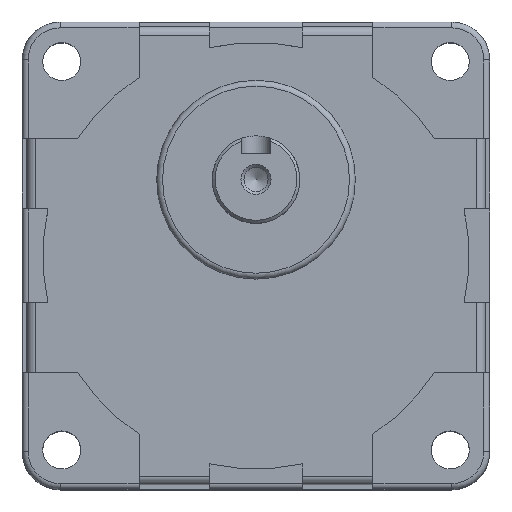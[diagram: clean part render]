
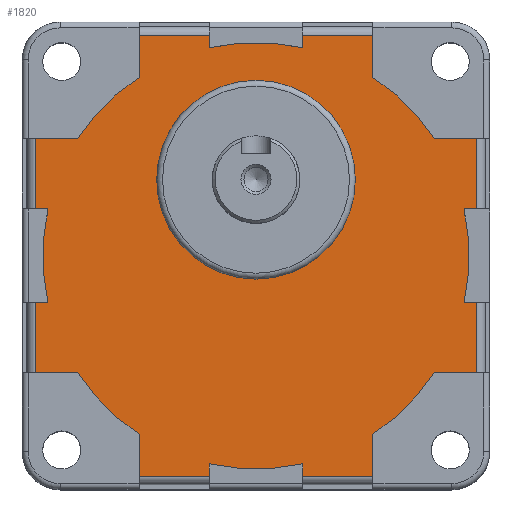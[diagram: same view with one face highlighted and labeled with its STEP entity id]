
A CAD part, top view. The second image highlights one B-rep face of the part: STEP entity #1820.
In plain terms, the highlighted planar face has unit normal (0, 0, 1).
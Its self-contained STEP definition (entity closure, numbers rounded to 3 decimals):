
#36=LINE('',#2787,#208);
#40=LINE('',#2799,#212);
#42=LINE('',#2805,#214);
#43=LINE('',#2809,#215);
#44=LINE('',#2811,#216);
#45=LINE('',#2813,#217);
#46=LINE('',#2817,#218);
#47=LINE('',#2819,#219);
#48=LINE('',#2821,#220);
#49=LINE('',#2825,#221);
#50=LINE('',#2827,#222);
#51=LINE('',#2829,#223);
#52=LINE('',#2833,#224);
#53=LINE('',#2835,#225);
#54=LINE('',#2837,#226);
#55=LINE('',#2841,#227);
#56=LINE('',#2843,#228);
#57=LINE('',#2845,#229);
#58=LINE('',#2849,#230);
#59=LINE('',#2851,#231);
#60=LINE('',#2853,#232);
#61=LINE('',#2856,#233);
#62=LINE('',#2858,#234);
#63=LINE('',#2861,#235);
#208=VECTOR('',#2207,12.);
#212=VECTOR('',#2217,12.);
#214=VECTOR('',#2223,7.167);
#215=VECTOR('',#2226,7.167);
#216=VECTOR('',#2227,12.);
#217=VECTOR('',#2228,2.088);
#218=VECTOR('',#2231,2.088);
#219=VECTOR('',#2232,12.);
#220=VECTOR('',#2233,7.167);
#221=VECTOR('',#2236,7.167);
#222=VECTOR('',#2237,12.);
#223=VECTOR('',#2238,2.088);
#224=VECTOR('',#2241,2.088);
#225=VECTOR('',#2242,12.);
#226=VECTOR('',#2243,7.167);
#227=VECTOR('',#2246,7.167);
#228=VECTOR('',#2247,12.);
#229=VECTOR('',#2248,2.088);
#230=VECTOR('',#2251,2.088);
#231=VECTOR('',#2252,12.);
#232=VECTOR('',#2253,7.167);
#233=VECTOR('',#2256,7.167);
#234=VECTOR('',#2257,2.088);
#235=VECTOR('',#2260,2.088);
#377=PLANE('',#1954);
#479=FACE_BOUND('',#633,.T.);
#511=FACE_OUTER_BOUND('',#632,.T.);
#632=EDGE_LOOP('',(#1341,#1342,#1343,#1344,#1345,#1346,#1347,#1348,#1349,
#1350,#1351,#1352,#1353,#1354,#1355,#1356,#1357,#1358,#1359,#1360,#1361,
#1362,#1363,#1364,#1365,#1366,#1367,#1368,#1369,#1370,#1371,#1372));
#633=EDGE_LOOP('',(#1373));
#745=CIRCLE('',#1945,17.);
#750=CIRCLE('',#1955,36.5);
#751=CIRCLE('',#1956,36.5);
#752=CIRCLE('',#1957,36.5);
#753=CIRCLE('',#1958,36.5);
#754=CIRCLE('',#1959,36.5);
#755=CIRCLE('',#1960,36.5);
#756=CIRCLE('',#1961,36.5);
#757=CIRCLE('',#1962,36.5);
#847=VERTEX_POINT('',#2776);
#848=VERTEX_POINT('',#2780);
#851=VERTEX_POINT('',#2785);
#855=VERTEX_POINT('',#2796);
#856=VERTEX_POINT('',#2798);
#858=VERTEX_POINT('',#2804);
#859=VERTEX_POINT('',#2806);
#860=VERTEX_POINT('',#2808);
#861=VERTEX_POINT('',#2810);
#862=VERTEX_POINT('',#2812);
#863=VERTEX_POINT('',#2814);
#864=VERTEX_POINT('',#2816);
#865=VERTEX_POINT('',#2818);
#866=VERTEX_POINT('',#2820);
#867=VERTEX_POINT('',#2822);
#868=VERTEX_POINT('',#2824);
#869=VERTEX_POINT('',#2826);
#870=VERTEX_POINT('',#2828);
#871=VERTEX_POINT('',#2830);
#872=VERTEX_POINT('',#2832);
#873=VERTEX_POINT('',#2834);
#874=VERTEX_POINT('',#2836);
#875=VERTEX_POINT('',#2838);
#876=VERTEX_POINT('',#2840);
#877=VERTEX_POINT('',#2842);
#878=VERTEX_POINT('',#2844);
#879=VERTEX_POINT('',#2846);
#880=VERTEX_POINT('',#2848);
#881=VERTEX_POINT('',#2850);
#882=VERTEX_POINT('',#2852);
#883=VERTEX_POINT('',#2854);
#884=VERTEX_POINT('',#2857);
#885=VERTEX_POINT('',#2859);
#1034=EDGE_CURVE('',#847,#847,#745,.T.);
#1038=EDGE_CURVE('',#851,#848,#36,.T.);
#1043=EDGE_CURVE('',#855,#856,#40,.T.);
#1046=EDGE_CURVE('',#851,#858,#42,.T.);
#1047=EDGE_CURVE('',#859,#858,#750,.T.);
#1048=EDGE_CURVE('',#860,#859,#43,.T.);
#1049=EDGE_CURVE('',#861,#860,#44,.T.);
#1050=EDGE_CURVE('',#862,#861,#45,.T.);
#1051=EDGE_CURVE('',#863,#862,#751,.T.);
#1052=EDGE_CURVE('',#863,#864,#46,.T.);
#1053=EDGE_CURVE('',#865,#864,#47,.T.);
#1054=EDGE_CURVE('',#865,#866,#48,.T.);
#1055=EDGE_CURVE('',#867,#866,#752,.T.);
#1056=EDGE_CURVE('',#868,#867,#49,.T.);
#1057=EDGE_CURVE('',#869,#868,#50,.T.);
#1058=EDGE_CURVE('',#870,#869,#51,.T.);
#1059=EDGE_CURVE('',#871,#870,#753,.T.);
#1060=EDGE_CURVE('',#871,#872,#52,.T.);
#1061=EDGE_CURVE('',#873,#872,#53,.T.);
#1062=EDGE_CURVE('',#873,#874,#54,.T.);
#1063=EDGE_CURVE('',#875,#874,#754,.T.);
#1064=EDGE_CURVE('',#876,#875,#55,.T.);
#1065=EDGE_CURVE('',#877,#876,#56,.T.);
#1066=EDGE_CURVE('',#878,#877,#57,.T.);
#1067=EDGE_CURVE('',#879,#878,#755,.T.);
#1068=EDGE_CURVE('',#879,#880,#58,.T.);
#1069=EDGE_CURVE('',#881,#880,#59,.T.);
#1070=EDGE_CURVE('',#881,#882,#60,.T.);
#1071=EDGE_CURVE('',#883,#882,#756,.T.);
#1072=EDGE_CURVE('',#856,#883,#61,.T.);
#1073=EDGE_CURVE('',#884,#855,#62,.T.);
#1074=EDGE_CURVE('',#885,#884,#757,.T.);
#1075=EDGE_CURVE('',#885,#848,#63,.T.);
#1341=ORIENTED_EDGE('',*,*,#1038,.F.);
#1342=ORIENTED_EDGE('',*,*,#1046,.T.);
#1343=ORIENTED_EDGE('',*,*,#1047,.F.);
#1344=ORIENTED_EDGE('',*,*,#1048,.F.);
#1345=ORIENTED_EDGE('',*,*,#1049,.F.);
#1346=ORIENTED_EDGE('',*,*,#1050,.F.);
#1347=ORIENTED_EDGE('',*,*,#1051,.F.);
#1348=ORIENTED_EDGE('',*,*,#1052,.T.);
#1349=ORIENTED_EDGE('',*,*,#1053,.F.);
#1350=ORIENTED_EDGE('',*,*,#1054,.T.);
#1351=ORIENTED_EDGE('',*,*,#1055,.F.);
#1352=ORIENTED_EDGE('',*,*,#1056,.F.);
#1353=ORIENTED_EDGE('',*,*,#1057,.F.);
#1354=ORIENTED_EDGE('',*,*,#1058,.F.);
#1355=ORIENTED_EDGE('',*,*,#1059,.F.);
#1356=ORIENTED_EDGE('',*,*,#1060,.T.);
#1357=ORIENTED_EDGE('',*,*,#1061,.F.);
#1358=ORIENTED_EDGE('',*,*,#1062,.T.);
#1359=ORIENTED_EDGE('',*,*,#1063,.F.);
#1360=ORIENTED_EDGE('',*,*,#1064,.F.);
#1361=ORIENTED_EDGE('',*,*,#1065,.F.);
#1362=ORIENTED_EDGE('',*,*,#1066,.F.);
#1363=ORIENTED_EDGE('',*,*,#1067,.F.);
#1364=ORIENTED_EDGE('',*,*,#1068,.T.);
#1365=ORIENTED_EDGE('',*,*,#1069,.F.);
#1366=ORIENTED_EDGE('',*,*,#1070,.T.);
#1367=ORIENTED_EDGE('',*,*,#1071,.F.);
#1368=ORIENTED_EDGE('',*,*,#1072,.F.);
#1369=ORIENTED_EDGE('',*,*,#1043,.F.);
#1370=ORIENTED_EDGE('',*,*,#1073,.F.);
#1371=ORIENTED_EDGE('',*,*,#1074,.F.);
#1372=ORIENTED_EDGE('',*,*,#1075,.T.);
#1373=ORIENTED_EDGE('',*,*,#1034,.F.);
#1820=ADVANCED_FACE('',(#511,#479),#377,.T.);
#1945=AXIS2_PLACEMENT_3D('',#2777,#2196,#2197);
#1954=AXIS2_PLACEMENT_3D('',#2803,#2221,#2222);
#1955=AXIS2_PLACEMENT_3D('',#2807,#2224,#2225);
#1956=AXIS2_PLACEMENT_3D('',#2815,#2229,#2230);
#1957=AXIS2_PLACEMENT_3D('',#2823,#2234,#2235);
#1958=AXIS2_PLACEMENT_3D('',#2831,#2239,#2240);
#1959=AXIS2_PLACEMENT_3D('',#2839,#2244,#2245);
#1960=AXIS2_PLACEMENT_3D('',#2847,#2249,#2250);
#1961=AXIS2_PLACEMENT_3D('',#2855,#2254,#2255);
#1962=AXIS2_PLACEMENT_3D('',#2860,#2258,#2259);
#2196=DIRECTION('center_axis',(0.,0.,1.));
#2197=DIRECTION('ref_axis',(-1.,0.,0.));
#2207=DIRECTION('',(0.,-1.,0.));
#2217=DIRECTION('',(0.,-1.,0.));
#2221=DIRECTION('center_axis',(0.,0.,1.));
#2222=DIRECTION('ref_axis',(1.,0.,0.));
#2223=DIRECTION('',(-1.,0.,0.));
#2224=DIRECTION('center_axis',(0.,0.,-1.));
#2225=DIRECTION('ref_axis',(-1.,0.,0.));
#2226=DIRECTION('',(0.,-1.,0.));
#2227=DIRECTION('',(1.,0.,0.));
#2228=DIRECTION('',(0.,1.,0.));
#2229=DIRECTION('center_axis',(0.,0.,-1.));
#2230=DIRECTION('ref_axis',(-1.,0.,0.));
#2231=DIRECTION('',(0.,1.,0.));
#2232=DIRECTION('',(1.,0.,0.));
#2233=DIRECTION('',(0.,-1.,0.));
#2234=DIRECTION('center_axis',(0.,0.,-1.));
#2235=DIRECTION('ref_axis',(-1.,0.,0.));
#2236=DIRECTION('',(1.,0.,0.));
#2237=DIRECTION('',(0.,1.,0.));
#2238=DIRECTION('',(-1.,0.,0.));
#2239=DIRECTION('center_axis',(0.,0.,-1.));
#2240=DIRECTION('ref_axis',(-1.,0.,0.));
#2241=DIRECTION('',(-1.,0.,0.));
#2242=DIRECTION('',(0.,1.,0.));
#2243=DIRECTION('',(1.,0.,0.));
#2244=DIRECTION('center_axis',(0.,0.,-1.));
#2245=DIRECTION('ref_axis',(-1.,0.,0.));
#2246=DIRECTION('',(0.,1.,0.));
#2247=DIRECTION('',(-1.,0.,0.));
#2248=DIRECTION('',(0.,-1.,0.));
#2249=DIRECTION('center_axis',(0.,0.,-1.));
#2250=DIRECTION('ref_axis',(-1.,0.,0.));
#2251=DIRECTION('',(0.,-1.,0.));
#2252=DIRECTION('',(-1.,0.,0.));
#2253=DIRECTION('',(0.,1.,0.));
#2254=DIRECTION('center_axis',(0.,0.,-1.));
#2255=DIRECTION('ref_axis',(-1.,0.,0.));
#2256=DIRECTION('',(-1.,0.,0.));
#2257=DIRECTION('',(1.,0.,0.));
#2258=DIRECTION('center_axis',(0.,0.,-1.));
#2259=DIRECTION('ref_axis',(-1.,0.,0.));
#2260=DIRECTION('',(1.,0.,0.));
#2776=CARTESIAN_POINT('',(17.,13.,50.2));
#2777=CARTESIAN_POINT('Origin',(0.,13.,50.2));
#2780=CARTESIAN_POINT('',(37.7,8.,50.2));
#2785=CARTESIAN_POINT('',(37.7,20.,50.2));
#2787=CARTESIAN_POINT('',(37.7,10.,50.2));
#2796=CARTESIAN_POINT('',(37.7,-8.,50.2));
#2798=CARTESIAN_POINT('',(37.7,-20.,50.2));
#2799=CARTESIAN_POINT('',(37.7,-10.,50.2));
#2803=CARTESIAN_POINT('Origin',(0.,0.,50.2));
#2804=CARTESIAN_POINT('',(30.533,20.,50.2));
#2805=CARTESIAN_POINT('',(30.533,20.,50.2));
#2806=CARTESIAN_POINT('',(20.,30.533,50.2));
#2807=CARTESIAN_POINT('Origin',(0.,0.,50.2));
#2808=CARTESIAN_POINT('',(20.,37.7,50.2));
#2809=CARTESIAN_POINT('',(20.,30.533,50.2));
#2810=CARTESIAN_POINT('',(8.,37.7,50.2));
#2811=CARTESIAN_POINT('',(10.,37.7,50.2));
#2812=CARTESIAN_POINT('',(8.,35.612,50.2));
#2813=CARTESIAN_POINT('',(8.,40.,50.2));
#2814=CARTESIAN_POINT('',(-8.,35.612,50.2));
#2815=CARTESIAN_POINT('Origin',(0.,0.,50.2));
#2816=CARTESIAN_POINT('',(-8.,37.7,50.2));
#2817=CARTESIAN_POINT('',(-8.,40.,50.2));
#2818=CARTESIAN_POINT('',(-20.,37.7,50.2));
#2819=CARTESIAN_POINT('',(-10.,37.7,50.2));
#2820=CARTESIAN_POINT('',(-20.,30.533,50.2));
#2821=CARTESIAN_POINT('',(-20.,30.533,50.2));
#2822=CARTESIAN_POINT('',(-30.533,20.,50.2));
#2823=CARTESIAN_POINT('Origin',(0.,0.,50.2));
#2824=CARTESIAN_POINT('',(-37.7,20.,50.2));
#2825=CARTESIAN_POINT('',(-30.533,20.,50.2));
#2826=CARTESIAN_POINT('',(-37.7,8.,50.2));
#2827=CARTESIAN_POINT('',(-37.7,10.,50.2));
#2828=CARTESIAN_POINT('',(-35.612,8.,50.2));
#2829=CARTESIAN_POINT('',(-40.,8.,50.2));
#2830=CARTESIAN_POINT('',(-35.612,-8.,50.2));
#2831=CARTESIAN_POINT('Origin',(0.,0.,50.2));
#2832=CARTESIAN_POINT('',(-37.7,-8.,50.2));
#2833=CARTESIAN_POINT('',(-40.,-8.,50.2));
#2834=CARTESIAN_POINT('',(-37.7,-20.,50.2));
#2835=CARTESIAN_POINT('',(-37.7,-10.,50.2));
#2836=CARTESIAN_POINT('',(-30.533,-20.,50.2));
#2837=CARTESIAN_POINT('',(-30.533,-20.,50.2));
#2838=CARTESIAN_POINT('',(-20.,-30.533,50.2));
#2839=CARTESIAN_POINT('Origin',(0.,0.,50.2));
#2840=CARTESIAN_POINT('',(-20.,-37.7,50.2));
#2841=CARTESIAN_POINT('',(-20.,-30.533,50.2));
#2842=CARTESIAN_POINT('',(-8.,-37.7,50.2));
#2843=CARTESIAN_POINT('',(-10.,-37.7,50.2));
#2844=CARTESIAN_POINT('',(-8.,-35.612,50.2));
#2845=CARTESIAN_POINT('',(-8.,-40.,50.2));
#2846=CARTESIAN_POINT('',(8.,-35.612,50.2));
#2847=CARTESIAN_POINT('Origin',(0.,0.,50.2));
#2848=CARTESIAN_POINT('',(8.,-37.7,50.2));
#2849=CARTESIAN_POINT('',(8.,-40.,50.2));
#2850=CARTESIAN_POINT('',(20.,-37.7,50.2));
#2851=CARTESIAN_POINT('',(10.,-37.7,50.2));
#2852=CARTESIAN_POINT('',(20.,-30.533,50.2));
#2853=CARTESIAN_POINT('',(20.,-30.533,50.2));
#2854=CARTESIAN_POINT('',(30.533,-20.,50.2));
#2855=CARTESIAN_POINT('Origin',(0.,0.,50.2));
#2856=CARTESIAN_POINT('',(30.533,-20.,50.2));
#2857=CARTESIAN_POINT('',(35.612,-8.,50.2));
#2858=CARTESIAN_POINT('',(40.,-8.,50.2));
#2859=CARTESIAN_POINT('',(35.612,8.,50.2));
#2860=CARTESIAN_POINT('Origin',(0.,0.,50.2));
#2861=CARTESIAN_POINT('',(40.,8.,50.2));
